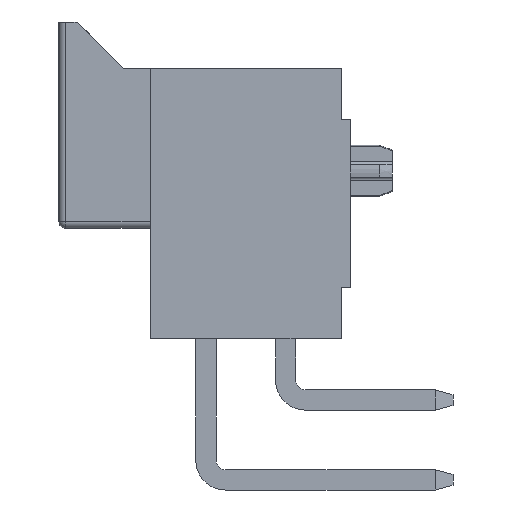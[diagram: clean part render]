
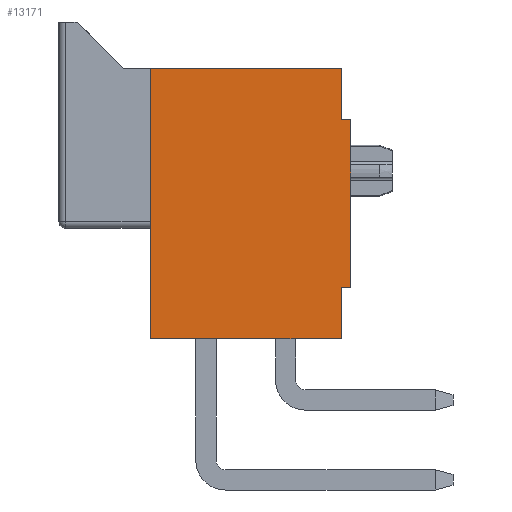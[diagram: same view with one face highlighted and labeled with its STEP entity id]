
A CAD part, left-side view. The second image highlights one B-rep face of the part: STEP entity #13171.
In plain terms, the highlighted planar face has unit normal (-1, 0, 0).
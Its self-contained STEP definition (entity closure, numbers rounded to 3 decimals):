
#660 = CARTESIAN_POINT ( 'NONE',  ( -5.47, -2.99, 4.23 ) ) ;
#1921 = CARTESIAN_POINT ( 'NONE',  ( -5.47, -2.99, -4.23 ) ) ;
#2019 = CARTESIAN_POINT ( 'NONE',  ( -5.47, -2.99, -4.23 ) ) ;
#2064 = LINE ( 'NONE', #16054, #4547 ) ;
#2149 = CARTESIAN_POINT ( 'NONE',  ( -5.47, 2.99, -4.23 ) ) ;
#2216 = ORIENTED_EDGE ( 'NONE', *, *, #14496, .F. ) ;
#2462 = DIRECTION ( 'NONE',  ( 0., 0., 1. ) ) ;
#2472 = EDGE_CURVE ( 'NONE', #11996, #5050, #13810, .T. ) ;
#2739 = FACE_OUTER_BOUND ( 'NONE', #11829, .T. ) ;
#3291 = LINE ( 'NONE', #2019, #12895 ) ;
#3328 = EDGE_CURVE ( 'NONE', #3346, #10954, #3895, .T. ) ;
#3346 = VERTEX_POINT ( 'NONE', #17117 ) ;
#3499 = VERTEX_POINT ( 'NONE', #14388 ) ;
#3534 = DIRECTION ( 'NONE',  ( 0., 0., -1. ) ) ;
#3864 = ORIENTED_EDGE ( 'NONE', *, *, #15006, .T. ) ;
#3895 = LINE ( 'NONE', #10310, #6529 ) ;
#4450 = CARTESIAN_POINT ( 'NONE',  ( -5.47, -2.99, -2.63 ) ) ;
#4547 = VECTOR ( 'NONE', #3534, 1000. ) ;
#4648 = ORIENTED_EDGE ( 'NONE', *, *, #9236, .F. ) ;
#5050 = VERTEX_POINT ( 'NONE', #10549 ) ;
#5113 = CARTESIAN_POINT ( 'NONE',  ( -5.47, -2.99, 2.63 ) ) ;
#5291 = ORIENTED_EDGE ( 'NONE', *, *, #3328, .T. ) ;
#5596 = ORIENTED_EDGE ( 'NONE', *, *, #19337, .F. ) ;
#5887 = VECTOR ( 'NONE', #13383, 1000. ) ;
#6218 = PLANE ( 'NONE',  #10957 ) ;
#6398 = ORIENTED_EDGE ( 'NONE', *, *, #2472, .T. ) ;
#6529 = VECTOR ( 'NONE', #8837, 1000. ) ;
#7397 = EDGE_CURVE ( 'NONE', #9722, #11996, #13061, .T. ) ;
#7628 = VECTOR ( 'NONE', #18309, 1000. ) ;
#8540 = CARTESIAN_POINT ( 'NONE',  ( -5.47, -2.99, -4.23 ) ) ;
#8837 = DIRECTION ( 'NONE',  ( 0., 0., 1. ) ) ;
#9236 = EDGE_CURVE ( 'NONE', #12418, #20352, #16537, .T. ) ;
#9375 = DIRECTION ( 'NONE',  ( 0., 0., 1. ) ) ;
#9722 = VERTEX_POINT ( 'NONE', #8540 ) ;
#9849 = EDGE_CURVE ( 'NONE', #3346, #3499, #14895, .T. ) ;
#10084 = CARTESIAN_POINT ( 'NONE',  ( -5.47, -2.99, -2.63 ) ) ;
#10310 = CARTESIAN_POINT ( 'NONE',  ( -5.47, -2.99, 2.63 ) ) ;
#10549 = CARTESIAN_POINT ( 'NONE',  ( -5.47, -3.29, -2.63 ) ) ;
#10954 = VERTEX_POINT ( 'NONE', #15544 ) ;
#10957 = AXIS2_PLACEMENT_3D ( 'NONE', #14198, #18928, #9375 ) ;
#10997 = CARTESIAN_POINT ( 'NONE',  ( -5.47, 2.99, 4.23 ) ) ;
#11274 = DIRECTION ( 'NONE',  ( 0., 1., 0. ) ) ;
#11829 = EDGE_LOOP ( 'NONE', ( #3864, #4648, #5596, #19190, #6398, #2216, #17600, #5291 ) ) ;
#11996 = VERTEX_POINT ( 'NONE', #10084 ) ;
#12418 = VERTEX_POINT ( 'NONE', #19935 ) ;
#12895 = VECTOR ( 'NONE', #11274, 1000. ) ;
#13061 = LINE ( 'NONE', #1921, #5887 ) ;
#13171 = ADVANCED_FACE ( 'NONE', ( #2739 ), #6218, .T. ) ;
#13383 = DIRECTION ( 'NONE',  ( 0., 0., 1. ) ) ;
#13810 = LINE ( 'NONE', #4450, #14163 ) ;
#14163 = VECTOR ( 'NONE', #16858, 1000. ) ;
#14198 = CARTESIAN_POINT ( 'NONE',  ( -5.47, -2.99, -4.23 ) ) ;
#14388 = CARTESIAN_POINT ( 'NONE',  ( -5.47, -3.29, 2.63 ) ) ;
#14496 = EDGE_CURVE ( 'NONE', #3499, #5050, #2064, .T. ) ;
#14872 = VECTOR ( 'NONE', #2462, 1000. ) ;
#14895 = LINE ( 'NONE', #5113, #19256 ) ;
#15006 = EDGE_CURVE ( 'NONE', #10954, #20352, #15064, .T. ) ;
#15064 = LINE ( 'NONE', #660, #7628 ) ;
#15544 = CARTESIAN_POINT ( 'NONE',  ( -5.47, -2.99, 4.23 ) ) ;
#16054 = CARTESIAN_POINT ( 'NONE',  ( -5.47, -3.29, 2.63 ) ) ;
#16537 = LINE ( 'NONE', #2149, #14872 ) ;
#16858 = DIRECTION ( 'NONE',  ( 0., -1., 0. ) ) ;
#17117 = CARTESIAN_POINT ( 'NONE',  ( -5.47, -2.99, 2.63 ) ) ;
#17600 = ORIENTED_EDGE ( 'NONE', *, *, #9849, .F. ) ;
#18309 = DIRECTION ( 'NONE',  ( 0., 1., 0. ) ) ;
#18928 = DIRECTION ( 'NONE',  ( -1., 0., 0. ) ) ;
#19190 = ORIENTED_EDGE ( 'NONE', *, *, #7397, .T. ) ;
#19256 = VECTOR ( 'NONE', #19726, 1000. ) ;
#19337 = EDGE_CURVE ( 'NONE', #9722, #12418, #3291, .T. ) ;
#19726 = DIRECTION ( 'NONE',  ( 0., -1., 0. ) ) ;
#19935 = CARTESIAN_POINT ( 'NONE',  ( -5.47, 2.99, -4.23 ) ) ;
#20352 = VERTEX_POINT ( 'NONE', #10997 ) ;
